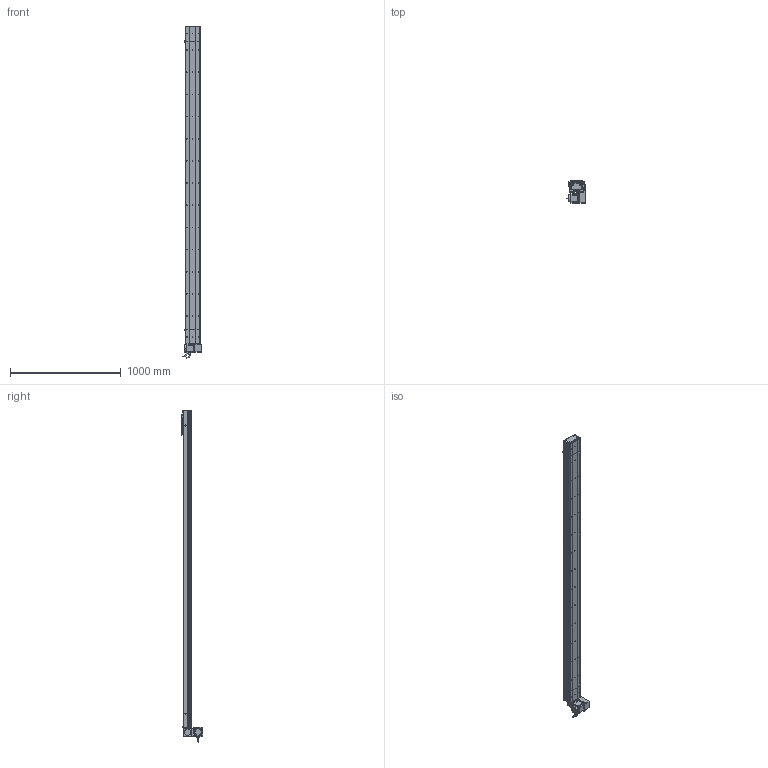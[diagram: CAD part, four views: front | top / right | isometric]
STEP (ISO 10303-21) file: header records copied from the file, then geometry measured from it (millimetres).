
FILE_DESCRIPTION (( 'STEP AP214' ), '1' );
FILE_NAME ('D14 CBH S2600 LU.STEP', '2010-06-30T07:32:09', ( 'Conseil Régional Haute-Normandie' ), ( 'Conseil Régional Haute-Normandie' ), 'SwSTEP 2.0', 'SolidWorks 2010', '' );
FILE_SCHEMA (( 'AUTOMOTIVE_DESIGN' ));
Length unit declared in the file: millimetre
Products named in the file (28): D14 CBH S2600 LU; plaque fermeture Head D14 CBH; Support moteur Head D14 CBH; Conecteur_Default; avant GMB 90 70 310; codeur GMB 90 70 310; Vis CHC M8; couvercle Head D14 CBH; corps GMB 90 70 310; vis CHC M7; Course CBH S2600; corps CBH S2600; plaque de bout Head D14 CBH; Tail CBH D14 B; Head D14 CBH LU; couvercle CBH S2600; corps Head D14 CBH; Head D14 CBH; plaque de bout tail CBH d14; vis CHC M5; chariot supérieur D14; couvercle tail CBH D14; charriot inférieur D14; chariot D14; corps tail  CBH d14 B; Conecteur2_Default; GMB 90 70 310; plaque de maintient CBH D14
Assembly tree (51 placements, depth 4):
  D14 CBH S2600 LU
    Head D14 CBH LU
      Support moteur Head D14 CBH
      GMB 90 70 310
        codeur GMB 90 70 310
        Conecteur_Default
        corps GMB 90 70 310
        avant GMB 90 70 310
        Conecteur2_Default
      plaque fermeture Head D14 CBH  x3
      Head D14 CBH
        Vis CHC M8  x2
        couvercle Head D14 CBH
        plaque de maintient CBH D14
        vis CHC M7  x4
        corps Head D14 CBH
        plaque de bout Head D14 CBH
    Course CBH S2600
      corps CBH S2600
      couvercle CBH S2600
    Tail CBH D14 B
      Vis CHC M8  x2
      vis CHC M7  x4
      plaque de bout tail CBH d14
      corps tail  CBH d14 B
      plaque de maintient CBH D14
      couvercle tail CBH D14
    chariot D14
      vis CHC M7  x8
      vis CHC M5  x4
      charriot inférieur D14
      chariot supérieur D14
Bounding box: 171.5 x 195.75 x 2995.95 mm (x, y, z)
Volume: 8186883.2 mm3; surface area: 2797792.6 mm2
Topology: 51 solids, 51 shells, 2510 faces, 6516 edges, 4280 vertices
Faces by surface type: plane 1371, bspline 538, cylinder 488, torus 61, cone 48, sphere 4
Entity records: 111165 total; most frequent: CARTESIAN_POINT 58484, ORIENTED_EDGE 11328, DIRECTION 8667, EDGE_CURVE 5664, VERTEX_POINT 3744, LINE 3725, VECTOR 3725, AXIS2_PLACEMENT_3D 2471
